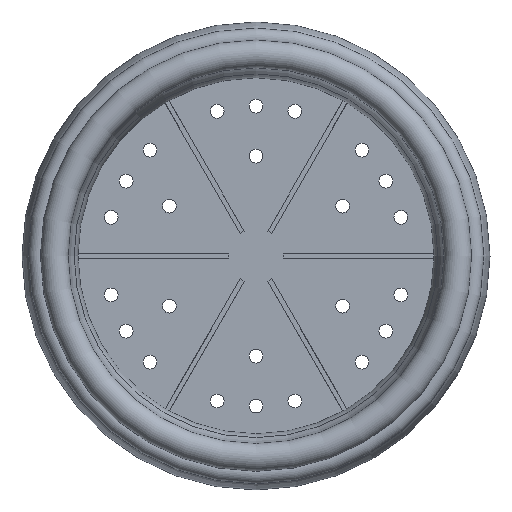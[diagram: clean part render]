
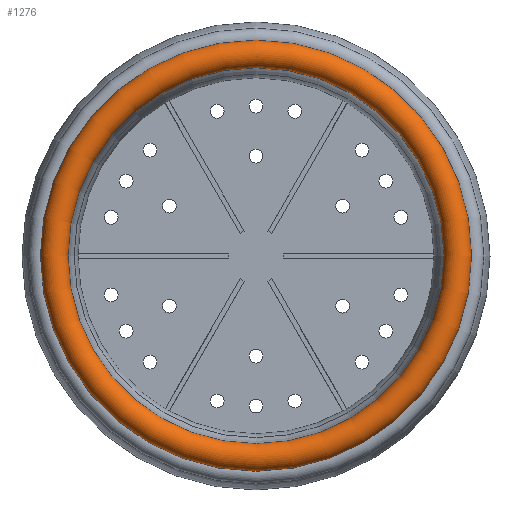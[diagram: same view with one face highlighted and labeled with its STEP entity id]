
A CAD part, top view. The second image highlights one B-rep face of the part: STEP entity #1276.
In plain terms, the highlighted toroidal (fillet/blend) face has major radius 73.18 mm and minor radius 5 mm.
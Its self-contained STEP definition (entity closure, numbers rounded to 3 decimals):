
#18=TOROIDAL_SURFACE('',#1441,73.18,5.);
#154=FACE_OUTER_BOUND('',#245,.T.);
#245=EDGE_LOOP('',(#1097,#1098,#1099,#1100));
#522=CIRCLE('',#1440,77.01);
#523=CIRCLE('',#1442,68.18);
#524=CIRCLE('',#1443,5.);
#643=VERTEX_POINT('',#2201);
#644=VERTEX_POINT('',#2205);
#810=EDGE_CURVE('',#643,#643,#522,.T.);
#812=EDGE_CURVE('',#644,#644,#523,.T.);
#813=EDGE_CURVE('',#644,#643,#524,.T.);
#1097=ORIENTED_EDGE('',*,*,#812,.F.);
#1098=ORIENTED_EDGE('',*,*,#813,.T.);
#1099=ORIENTED_EDGE('',*,*,#810,.T.);
#1100=ORIENTED_EDGE('',*,*,#813,.F.);
#1276=ADVANCED_FACE('',(#154),#18,.T.);
#1440=AXIS2_PLACEMENT_3D('',#2202,#1821,#1822);
#1441=AXIS2_PLACEMENT_3D('',#2204,#1824,#1825);
#1442=AXIS2_PLACEMENT_3D('',#2206,#1826,#1827);
#1443=AXIS2_PLACEMENT_3D('',#2207,#1828,#1829);
#1821=DIRECTION('center_axis',(0.,0.,1.));
#1822=DIRECTION('ref_axis',(1.,0.,0.));
#1824=DIRECTION('center_axis',(0.,0.,1.));
#1825=DIRECTION('ref_axis',(1.,0.,0.));
#1826=DIRECTION('center_axis',(0.,0.,1.));
#1827=DIRECTION('ref_axis',(1.,0.,0.));
#1828=DIRECTION('center_axis',(0.,-1.,0.));
#1829=DIRECTION('ref_axis',(-1.,0.,0.));
#2201=CARTESIAN_POINT('',(-77.01,0.,91.786));
#2202=CARTESIAN_POINT('Origin',(0.,0.,91.786));
#2204=CARTESIAN_POINT('Origin',(0.,0.,95.));
#2205=CARTESIAN_POINT('',(-68.18,0.,95.));
#2206=CARTESIAN_POINT('Origin',(0.,0.,95.));
#2207=CARTESIAN_POINT('Origin',(-73.18,0.,
95.));
